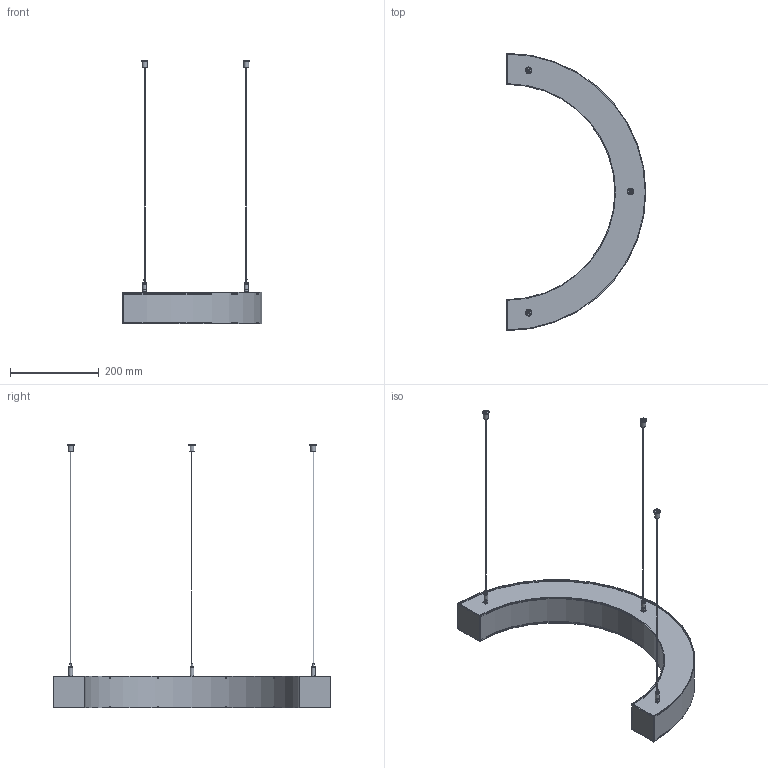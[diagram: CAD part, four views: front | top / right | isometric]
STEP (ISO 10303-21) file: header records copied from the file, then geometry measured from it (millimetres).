
FILE_DESCRIPTION(('STEP AP203'), '1');
FILE_NAME('Half RING 625mm', '', ('UNSPECIFIED'), ('UNSPECIFIED'), 'C3D Converter', 'C3D Toolkit', '');
FILE_SCHEMA(('CONFIG_CONTROL_DESIGN'));
Length unit declared in the file: millimetre
Assembly tree (13 placements, depth 4):
  (unnamed)
    (unnamed)
    (unnamed)
    (unnamed)
    (unnamed)  x3
      (unnamed)
        (unnamed)
        (unnamed)
      (unnamed)
      (unnamed)
    (unnamed)  x2
Bounding box: 315 x 625 x 593 mm (x, y, z)
Volume: 414546.2 mm3; surface area: 557373.9 mm2
Topology: 18 solids, 18 shells, 163 faces, 315 edges, 209 vertices
Faces by surface type: plane 111, cylinder 49, cone 3
Full cylindrical faces by diameter (mm): 2 x3, 2.5 x3, 4 x3, 4.5 x3, 4.7 x3, 5 x6, 6 x3, 8.8 x3, 9 x6, 11 x3, 15 x3
Entity records: 2699 total; most frequent: DIRECTION 380, CARTESIAN_POINT 333, ORIENTED_EDGE 278, AXIS2_PLACEMENT_3D 150, EDGE_CURVE 139, EDGE_LOOP 108, VERTEX_POINT 103, LINE 80
